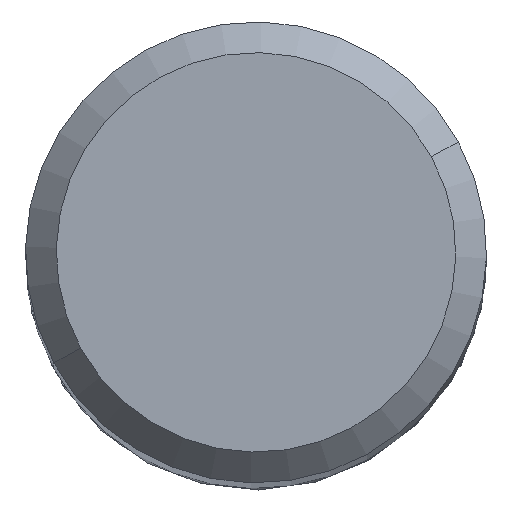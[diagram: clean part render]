
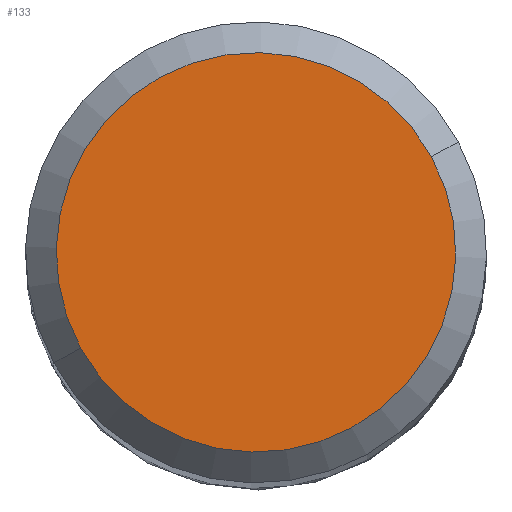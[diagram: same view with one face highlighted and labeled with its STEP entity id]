
A CAD part, top view. The second image highlights one B-rep face of the part: STEP entity #133.
In plain terms, the highlighted planar face has unit normal (0, 0, 1).
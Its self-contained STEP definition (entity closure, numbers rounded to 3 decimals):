
#86=AXIS2_PLACEMENT_3D('Circle Axis2P3D',#84,#85,$) ;
#122=AXIS2_PLACEMENT_3D('Plane Axis2P3D',#119,#120,#121) ;
#126=AXIS2_PLACEMENT_3D('Circle Axis2P3D',#124,#125,$) ;
#84=CARTESIAN_POINT('Axis2P3D Location',(0.,0.,57.)) ;
#88=CARTESIAN_POINT('Vertex',(2.282,1.247,57.)) ;
#90=CARTESIAN_POINT('Vertex',(-2.282,-1.247,57.)) ;
#119=CARTESIAN_POINT('Axis2P3D Location',(2.6,0.,57.)) ;
#124=CARTESIAN_POINT('Axis2P3D Location',(0.,0.,57.)) ;
#85=DIRECTION('Axis2P3D Direction',(0.,0.,-1.)) ;
#120=DIRECTION('Axis2P3D Direction',(0.,0.,1.)) ;
#121=DIRECTION('Axis2P3D XDirection',(1.,0.,0.)) ;
#125=DIRECTION('Axis2P3D Direction',(0.,0.,1.)) ;
#130=ORIENTED_EDGE('',*,*,#92,.T.) ;
#131=ORIENTED_EDGE('',*,*,#128,.T.) ;
#133=ADVANCED_FACE('NOCUT',(#132),#123,.T.) ;
#87=CIRCLE('generated circle',#86,2.6) ;
#127=CIRCLE('generated circle',#126,2.6) ;
#92=EDGE_CURVE('',#89,#91,#87,.F.) ;
#128=EDGE_CURVE('',#91,#89,#127,.T.) ;
#129=EDGE_LOOP('',(#130,#131)) ;
#132=FACE_OUTER_BOUND('',#129,.T.) ;
#123=PLANE('',#122) ;
#89=VERTEX_POINT('',#88) ;
#91=VERTEX_POINT('',#90) ;
